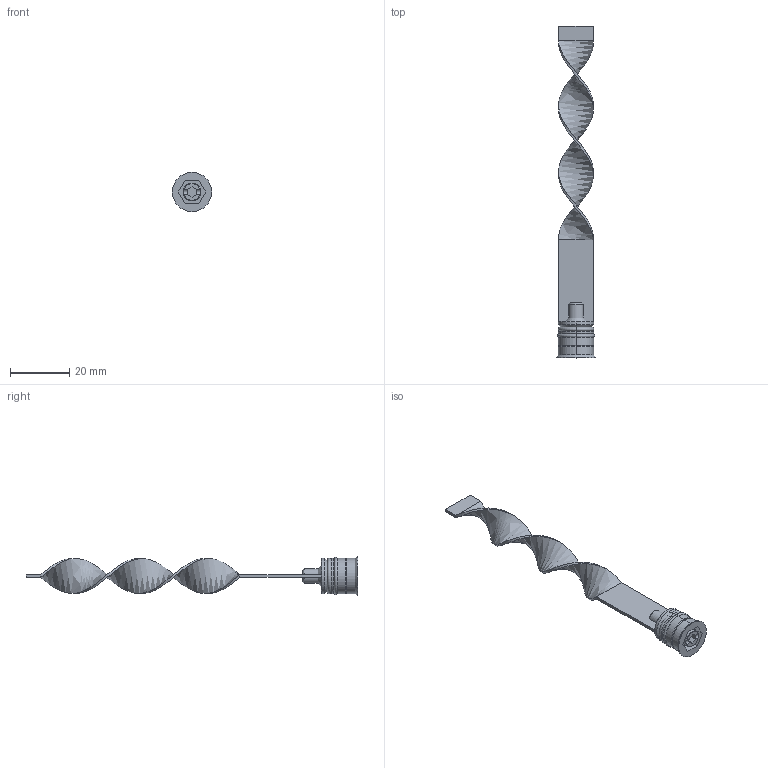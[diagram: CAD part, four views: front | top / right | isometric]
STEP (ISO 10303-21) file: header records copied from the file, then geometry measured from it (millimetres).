
FILE_DESCRIPTION (( 'STEP AP203' ), '1' );
FILE_NAME ('RLS-12Fx100.STEP', '2015-12-04T14:41:55', ( 'Balzi' ), ( '' ), 'SwSTEP 2.0', 'SolidWorks 2015', '' );
FILE_SCHEMA (( 'CONFIG_CONTROL_DESIGN' ));
Length unit declared in the file: millimetre
Products named in the file (1): RLS-12Fx100
Bounding box: 13.3 x 112.5 x 13.3 mm (x, y, z)
Volume: 2543.9 mm3; surface area: 3802.7 mm2
Topology: 1 solids, 1 shells, 80 faces, 187 edges, 113 vertices
Faces by surface type: plane 34, cylinder 17, cone 17, torus 8, bspline 4
Entity records: 3273 total; most frequent: CARTESIAN_POINT 1383, DIRECTION 386, ORIENTED_EDGE 374, EDGE_CURVE 187, AXIS2_PLACEMENT_3D 144, VERTEX_POINT 113, LINE 98, VECTOR 98
